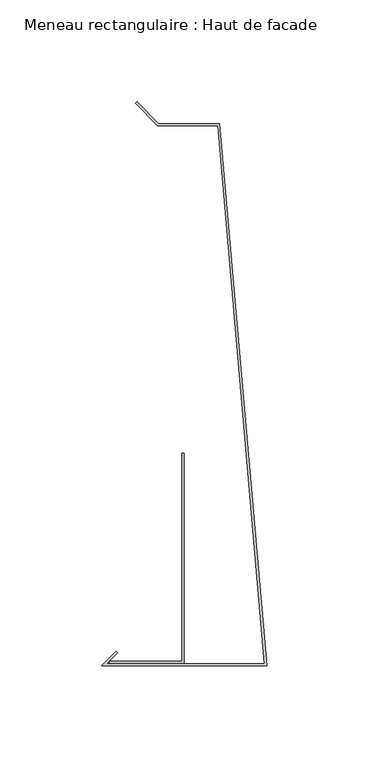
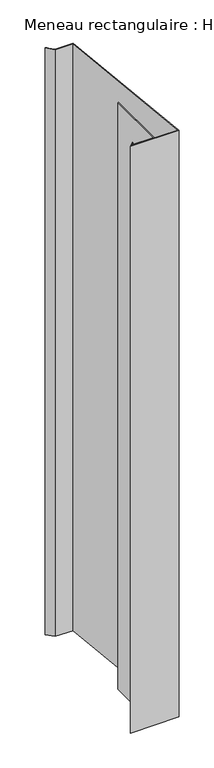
"""IFC4 building model written with IfcOpenShell, lengths in millimetres: member geometry, Meneau rectangulaire : Haut de facade."""

from ifc_helpers import new_model, si_unit, frame, origin, place, context, project, spatial, polyline, outline, extrude, source, transform, mapped, element, save


def meneau_rectangulaire_haut_de_facade_178c63db(model_context):
    return source(origin(), model_context, "Body", "SweptSolid", [
        extrude(outline(polyline([(-24.0647895, 160.703755), (-53.5626719, 160.703755), (-64.4621669, 171.6032499), (-63.7550601, 172.3103567), (-53.1484584, 161.703755), (-23.1484584, 161.703755), (0.0, -104.2), (-81.0, -104.2), (-73.9289322, -97.1289322), (-73.2218254, -97.836039), (-78.5857864, -103.2), (-1.0913085, -103.2), (-24.0647895, 160.703755)])), frame((0.0, 0.0, -1033.3333333), z_axis=(0.0, 0.0, 1.0), x_axis=(1.0, 0.0, 0.0)), (0.0, 0.0, 1.0), 1033.3333333),
        extrude(outline(polyline([(-40.5477541, -102.9846816), (-77.0752814, -102.9846816), (-77.0752814, -101.9846816), (-41.5477541, -101.9846816), (-41.5477541, -0.0384227), (-40.5477541, -0.0384227), (-40.5477541, -102.9846816)])), frame((0.0, 0.0, -1033.3333333), z_axis=(0.0, 0.0, 1.0), x_axis=(1.0, 0.0, 0.0)), (0.0, 0.0, 1.0), 1033.3333333),
    ])


if __name__ == "__main__":
    model = new_model("IFC4")
    model_context = context("Model", 3, world=origin())
    ifc_project = project(units=[si_unit("LENGTHUNIT", "METRE", prefix="MILLI")], contexts=[model_context])
    site = spatial("IfcSite", under=ifc_project)
    building = spatial("IfcBuilding", under=site)
    placement = place(None, origin())
    meneau_rectangulaire_haut_de_facade_shape = meneau_rectangulaire_haut_de_facade_178c63db(model_context)
    element("IfcMember", 1, ObjectType="Meneau rectangulaire : Haut de facade", at=placement, inside=building, context=model_context, shape_type="MappedRepresentation", body=[
        mapped(meneau_rectangulaire_haut_de_facade_shape, transform((0.0, 0.0, 0.0), x_axis=(1.0, 0.0, 0.0), y_axis=(0.0, 1.0, 0.0), z_axis=(0.0, 0.0, 1.0))),
    ])
    save(model, "model.ifc")
